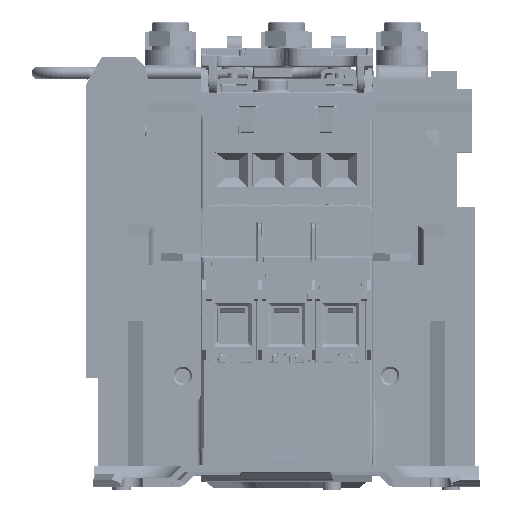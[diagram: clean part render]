
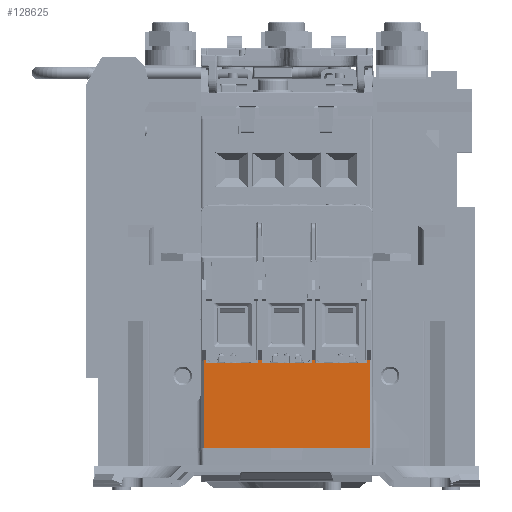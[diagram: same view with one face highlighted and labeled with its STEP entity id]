
A CAD part, top view. The second image highlights one B-rep face of the part: STEP entity #128625.
In plain terms, the highlighted planar face has unit normal (0, 0, 1).
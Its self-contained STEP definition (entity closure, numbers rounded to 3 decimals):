
#92032=DIRECTION('',(-1.,0.,0.));
#92033=VECTOR('',#92032,43.2);
#92034=CARTESIAN_POINT('',(21.6,2.1,11.6));
#92035=LINE('',#92034,#92033);
#97221=DIRECTION('',(-1.,0.,0.));
#97222=VECTOR('',#97221,13.411);
#97223=CARTESIAN_POINT('',(20.905,24.304,11.6));
#97224=LINE('',#97223,#97222);
#97253=DIRECTION('',(-1.,0.,0.));
#97254=VECTOR('',#97253,13.411);
#97255=CARTESIAN_POINT('',(-7.495,24.304,11.6));
#97256=LINE('',#97255,#97254);
#97345=DIRECTION('',(-1.,0.,0.));
#97346=VECTOR('',#97345,13.011);
#97347=CARTESIAN_POINT('',(6.505,24.304,11.6));
#97348=LINE('',#97347,#97346);
#97654=DIRECTION('',(0.,1.,0.));
#97655=VECTOR('',#97654,23.1);
#97656=CARTESIAN_POINT('',(-21.6,2.1,11.6));
#97657=LINE('',#97656,#97655);
#97658=DIRECTION('',(1.,0.,0.));
#97659=VECTOR('',#97658,0.695);
#97660=CARTESIAN_POINT('',(-21.6,25.2,11.6));
#97661=LINE('',#97660,#97659);
#97662=DIRECTION('',(0.,-1.,0.));
#97663=VECTOR('',#97662,0.896);
#97664=CARTESIAN_POINT('',(-20.905,25.2,11.6));
#97665=LINE('',#97664,#97663);
#97666=DIRECTION('',(0.,1.,0.));
#97667=VECTOR('',#97666,0.896);
#97668=CARTESIAN_POINT('',(-7.495,24.304,11.6));
#97669=LINE('',#97668,#97667);
#97670=DIRECTION('',(0.,-1.,0.));
#97671=VECTOR('',#97670,0.896);
#97672=CARTESIAN_POINT('',(-6.505,25.2,11.6));
#97673=LINE('',#97672,#97671);
#97674=DIRECTION('',(0.,1.,0.));
#97675=VECTOR('',#97674,0.896);
#97676=CARTESIAN_POINT('',(6.505,24.304,11.6));
#97677=LINE('',#97676,#97675);
#97678=DIRECTION('',(0.,-1.,0.));
#97679=VECTOR('',#97678,0.896);
#97680=CARTESIAN_POINT('',(7.495,25.2,11.6));
#97681=LINE('',#97680,#97679);
#97682=DIRECTION('',(0.,1.,0.));
#97683=VECTOR('',#97682,0.896);
#97684=CARTESIAN_POINT('',(20.905,24.304,11.6));
#97685=LINE('',#97684,#97683);
#97686=DIRECTION('',(1.,0.,0.));
#97687=VECTOR('',#97686,0.695);
#97688=CARTESIAN_POINT('',(20.905,25.2,11.6));
#97689=LINE('',#97688,#97687);
#97690=DIRECTION('',(0.,1.,0.));
#97691=VECTOR('',#97690,23.1);
#97692=CARTESIAN_POINT('',(21.6,2.1,11.6));
#97693=LINE('',#97692,#97691);
#109909=DIRECTION('',(1.,0.,0.));
#109910=VECTOR('',#109909,0.989);
#109911=CARTESIAN_POINT('',(-7.495,25.2,11.6));
#109912=LINE('',#109911,#109910);
#111008=DIRECTION('',(1.,0.,0.));
#111009=VECTOR('',#111008,0.989);
#111010=CARTESIAN_POINT('',(6.505,25.2,11.6));
#111011=LINE('',#111010,#111009);
#116975=CARTESIAN_POINT('',(-20.905,24.304,11.6));
#116977=VERTEX_POINT('',#116975);
#116979=CARTESIAN_POINT('',(20.905,24.304,11.6));
#116981=VERTEX_POINT('',#116979);
#116983=CARTESIAN_POINT('',(-7.495,24.304,11.6));
#116984=CARTESIAN_POINT('',(-7.495,25.2,11.6));
#116985=VERTEX_POINT('',#116983);
#116986=VERTEX_POINT('',#116984);
#116987=CARTESIAN_POINT('',(-6.505,25.2,11.6));
#116988=CARTESIAN_POINT('',(-6.505,24.304,11.6));
#116989=VERTEX_POINT('',#116987);
#116990=VERTEX_POINT('',#116988);
#116991=CARTESIAN_POINT('',(6.505,24.304,11.6));
#116992=CARTESIAN_POINT('',(6.505,25.2,11.6));
#116993=VERTEX_POINT('',#116991);
#116994=VERTEX_POINT('',#116992);
#116995=CARTESIAN_POINT('',(7.495,25.2,11.6));
#116996=CARTESIAN_POINT('',(7.495,24.304,11.6));
#116997=VERTEX_POINT('',#116995);
#116998=VERTEX_POINT('',#116996);
#119903=CARTESIAN_POINT('',(-20.905,25.2,11.6));
#119904=VERTEX_POINT('',#119903);
#119905=CARTESIAN_POINT('',(20.905,25.2,11.6));
#119906=VERTEX_POINT('',#119905);
#119914=CARTESIAN_POINT('',(21.6,2.1,11.6));
#119916=VERTEX_POINT('',#119914);
#119917=CARTESIAN_POINT('',(21.6,25.2,11.6));
#119918=VERTEX_POINT('',#119917);
#119931=CARTESIAN_POINT('',(-21.6,2.1,11.6));
#119933=VERTEX_POINT('',#119931);
#119937=CARTESIAN_POINT('',(-21.6,25.2,11.6));
#119938=VERTEX_POINT('',#119937);
#128592=CARTESIAN_POINT('',(0.,0.,11.6));
#128593=DIRECTION('',(0.,0.,1.));
#128594=DIRECTION('',(1.,0.,0.));
#128595=AXIS2_PLACEMENT_3D('',#128592,#128593,#128594);
#128596=PLANE('',#128595);
#128597=ORIENTED_EDGE('',*,*,#121496,.T.);
#128599=ORIENTED_EDGE('',*,*,#128598,.T.);
#128601=ORIENTED_EDGE('',*,*,#128600,.T.);
#128602=ORIENTED_EDGE('',*,*,#128059,.F.);
#128604=ORIENTED_EDGE('',*,*,#128603,.T.);
#128606=ORIENTED_EDGE('',*,*,#128605,.T.);
#128608=ORIENTED_EDGE('',*,*,#128607,.T.);
#128609=ORIENTED_EDGE('',*,*,#128137,.F.);
#128611=ORIENTED_EDGE('',*,*,#128610,.T.);
#128613=ORIENTED_EDGE('',*,*,#128612,.T.);
#128615=ORIENTED_EDGE('',*,*,#128614,.T.);
#128616=ORIENTED_EDGE('',*,*,#128021,.F.);
#128618=ORIENTED_EDGE('',*,*,#128617,.T.);
#128620=ORIENTED_EDGE('',*,*,#128619,.T.);
#128621=ORIENTED_EDGE('',*,*,#128581,.F.);
#128622=ORIENTED_EDGE('',*,*,#121331,.T.);
#128623=EDGE_LOOP('',(#128597,#128599,#128601,#128602,#128604,#128606,#128608,
#128609,#128611,#128613,#128615,#128616,#128618,#128620,#128621,#128622));
#128624=FACE_OUTER_BOUND('',#128623,.F.);
#128625=ADVANCED_FACE('',(#128624),#128596,.T.);
#121331=EDGE_CURVE('',#119916,#119933,#92035,.T.);
#121496=EDGE_CURVE('',#119933,#119938,#97657,.T.);
#128021=EDGE_CURVE('',#116981,#116998,#97224,.T.);
#128059=EDGE_CURVE('',#116985,#116977,#97256,.T.);
#128137=EDGE_CURVE('',#116993,#116990,#97348,.T.);
#128581=EDGE_CURVE('',#119916,#119918,#97693,.T.);
#128598=EDGE_CURVE('',#119938,#119904,#97661,.T.);
#128600=EDGE_CURVE('',#119904,#116977,#97665,.T.);
#128603=EDGE_CURVE('',#116985,#116986,#97669,.T.);
#128605=EDGE_CURVE('',#116986,#116989,#109912,.T.);
#128607=EDGE_CURVE('',#116989,#116990,#97673,.T.);
#128610=EDGE_CURVE('',#116993,#116994,#97677,.T.);
#128612=EDGE_CURVE('',#116994,#116997,#111011,.T.);
#128614=EDGE_CURVE('',#116997,#116998,#97681,.T.);
#128617=EDGE_CURVE('',#116981,#119906,#97685,.T.);
#128619=EDGE_CURVE('',#119906,#119918,#97689,.T.);
